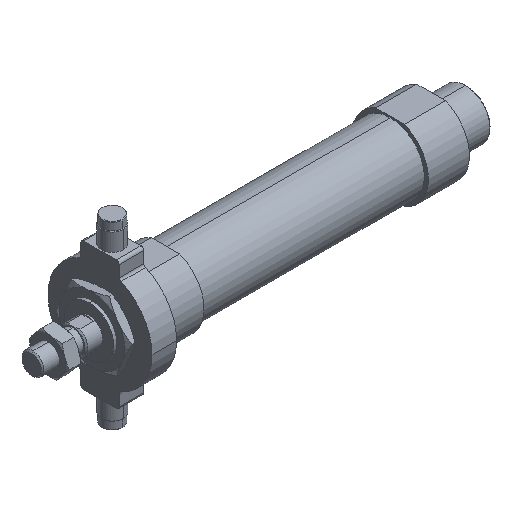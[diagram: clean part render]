
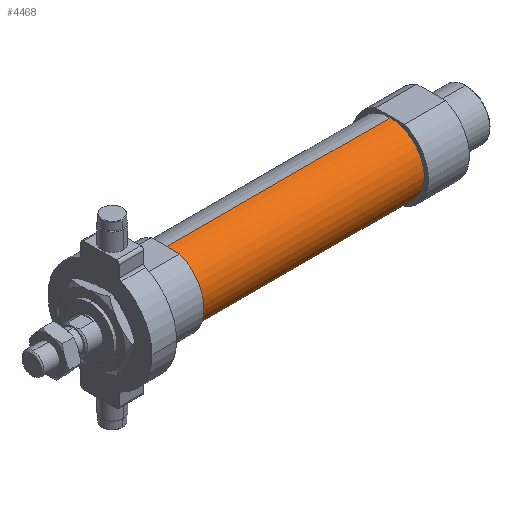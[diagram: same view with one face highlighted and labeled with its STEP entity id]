
A CAD part, isometric view. The second image highlights one B-rep face of the part: STEP entity #4468.
In plain terms, the highlighted cylindrical face has radius 12.5 mm (diameter 25 mm), a partial arc.
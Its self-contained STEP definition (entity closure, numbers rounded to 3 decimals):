
#2 = EDGE_CURVE ( 'NONE', #2135, #3281, #2601, .T. ) ;
#129 = VECTOR ( 'NONE', #376, 1000. ) ;
#247 = CARTESIAN_POINT ( 'NONE',  ( 131., 0., 12.5 ) ) ;
#260 = DIRECTION ( 'NONE',  ( -1., 0., 0. ) ) ;
#376 = DIRECTION ( 'NONE',  ( -1., 0., 0. ) ) ;
#516 = DIRECTION ( 'NONE',  ( 0., 0., 1. ) ) ;
#526 = LINE ( 'NONE', #4187, #4123 ) ;
#833 = AXIS2_PLACEMENT_3D ( 'NONE', #1732, #1210, #4037 ) ;
#898 = VERTEX_POINT ( 'NONE', #3657 ) ;
#979 = ORIENTED_EDGE ( 'NONE', *, *, #2, .T. ) ;
#1039 = LINE ( 'NONE', #1759, #129 ) ;
#1210 = DIRECTION ( 'NONE',  ( -1., 0., 0. ) ) ;
#1374 = EDGE_CURVE ( 'NONE', #2135, #898, #526, .T. ) ;
#1401 = VERTEX_POINT ( 'NONE', #3449 ) ;
#1575 = FACE_OUTER_BOUND ( 'NONE', #3876, .T. ) ;
#1732 = CARTESIAN_POINT ( 'NONE',  ( -6.469, 0., 0. ) ) ;
#1759 = CARTESIAN_POINT ( 'NONE',  ( -6.469, 0., 12.5 ) ) ;
#1807 = AXIS2_PLACEMENT_3D ( 'NONE', #2520, #3682, #2295 ) ;
#2004 = DIRECTION ( 'NONE',  ( -1., 0., 0. ) ) ;
#2135 = VERTEX_POINT ( 'NONE', #3679 ) ;
#2295 = DIRECTION ( 'NONE',  ( 0., 0., 1. ) ) ;
#2410 = ORIENTED_EDGE ( 'NONE', *, *, #3303, .F. ) ;
#2427 = AXIS2_PLACEMENT_3D ( 'NONE', #4176, #2004, #516 ) ;
#2520 = CARTESIAN_POINT ( 'NONE',  ( 131., 0., 0. ) ) ;
#2579 = ORIENTED_EDGE ( 'NONE', *, *, #3963, .T. ) ;
#2601 = CIRCLE ( 'NONE', #1807, 12.5 ) ;
#2647 = ORIENTED_EDGE ( 'NONE', *, *, #1374, .F. ) ;
#3281 = VERTEX_POINT ( 'NONE', #247 ) ;
#3303 = EDGE_CURVE ( 'NONE', #898, #1401, #3314, .T. ) ;
#3314 = CIRCLE ( 'NONE', #2427, 12.5 ) ;
#3449 = CARTESIAN_POINT ( 'NONE',  ( 49., 0., 12.5 ) ) ;
#3657 = CARTESIAN_POINT ( 'NONE',  ( 49., 0., -12.5 ) ) ;
#3679 = CARTESIAN_POINT ( 'NONE',  ( 131., 0., -12.5 ) ) ;
#3682 = DIRECTION ( 'NONE',  ( -1., 0., 0. ) ) ;
#3876 = EDGE_LOOP ( 'NONE', ( #2647, #979, #2579, #2410 ) ) ;
#3963 = EDGE_CURVE ( 'NONE', #3281, #1401, #1039, .T. ) ;
#4037 = DIRECTION ( 'NONE',  ( 0., 0., 1. ) ) ;
#4116 = CYLINDRICAL_SURFACE ( 'NONE', #833, 12.5 ) ;
#4123 = VECTOR ( 'NONE', #260, 1000. ) ;
#4176 = CARTESIAN_POINT ( 'NONE',  ( 49., 0., 0. ) ) ;
#4187 = CARTESIAN_POINT ( 'NONE',  ( -6.469, 0., -12.5 ) ) ;
#4468 = ADVANCED_FACE ( 'NONE', ( #1575 ), #4116, .T. ) ;
